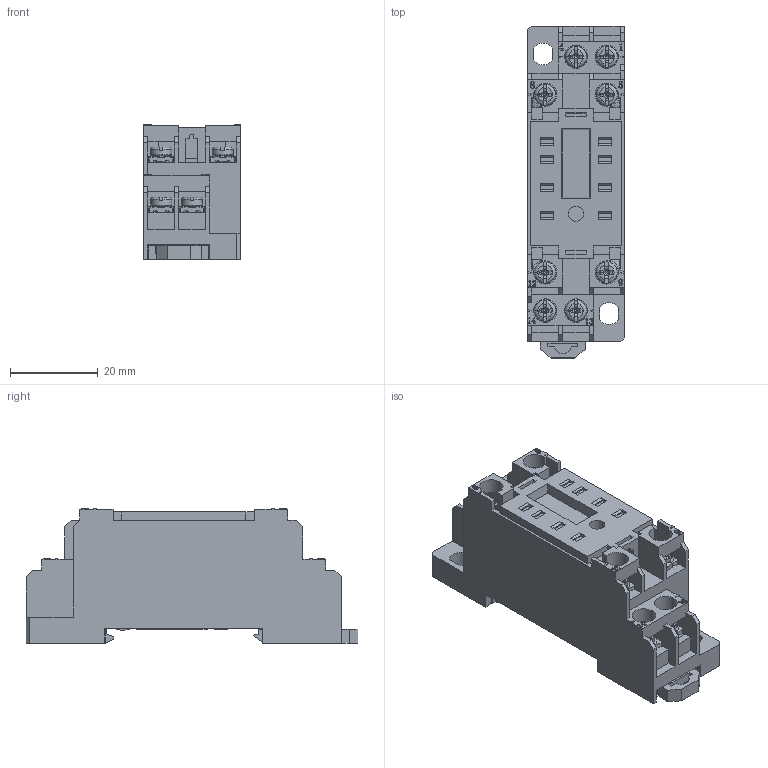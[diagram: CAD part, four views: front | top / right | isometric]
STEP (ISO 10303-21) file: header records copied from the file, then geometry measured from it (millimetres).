
FILE_DESCRIPTION (( 'STEP AP203' ), '1' );
FILE_NAME ('SYF08 A-E 俋倛.STEP', '2023-07-17T06:09:15', ( 'admin' ), ( '' ), 'SwSTEP 2.0', 'SolidWorks 2022', '' );
FILE_SCHEMA (( 'CONFIG_CONTROL_DESIGN' ));
Length unit declared in the file: millimetre
Products named in the file (1): SYF08 A-E 俋倛
Bounding box: 22 x 75.45 x 30.65 mm (x, y, z)
Volume: 31691.9 mm3; surface area: 15143.1 mm2
Topology: 1 solids, 3 shells, 2341 faces, 6328 edges, 3988 vertices
Faces by surface type: plane 1123, bspline 513, cylinder 399, torus 144, cone 98, sphere 64
Entity records: 86303 total; most frequent: CARTESIAN_POINT 32413, ORIENTED_EDGE 12496, DIRECTION 9421, EDGE_CURVE 6248, VERTEX_POINT 3988, LINE 3271, VECTOR 3271, AXIS2_PLACEMENT_3D 3075
